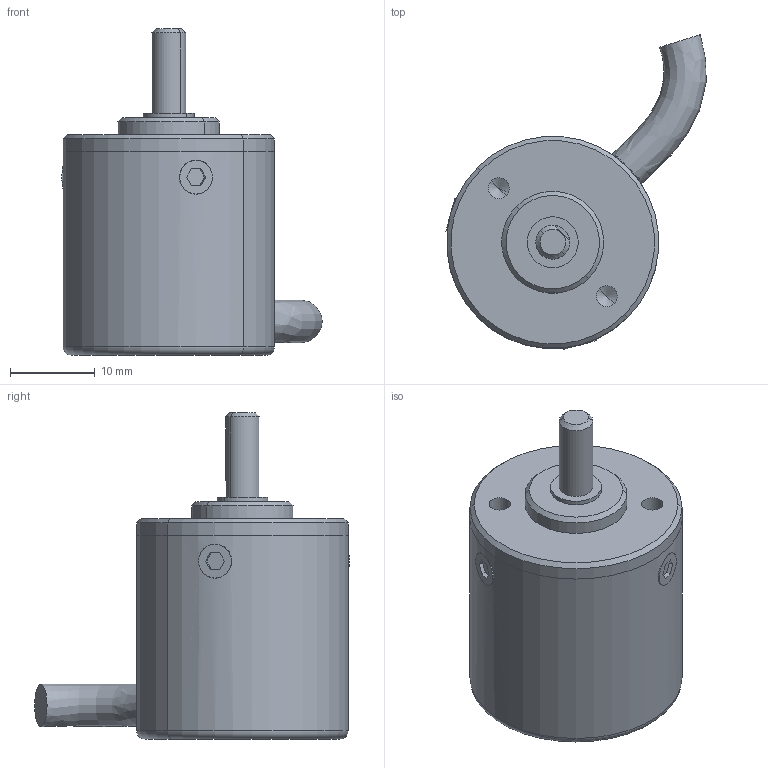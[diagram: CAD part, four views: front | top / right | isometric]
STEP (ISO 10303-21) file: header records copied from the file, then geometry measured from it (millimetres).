
FILE_DESCRIPTION(/* description */ (''),/* implementation_level */ '2;1');
FILE_NAME(/* name */ '00-1编码器 IP54-BRT25-4mm轴 _侧出）_stp.stp',/* time_stamp */ '2024-04-22T18:47:20+08:00',/* author */ (''),/* organization */ (''),/* preprocessor_version */ 'ST-DEVELOPER v16.7',/* originating_system */ 'SIEMENS PLM Software NX 12.0',/* authorisation */ '');
FILE_SCHEMA (('AP203_CONFIGURATION_CONTROLLED_3D_DESIGN_OF_MECHANICAL_PARTS_AND_ASSEMBLIES_MIM_LF { 1 0 10303 403 2 1 2}'));
Length unit declared in the file: millimetre
Products named in the file (1): Li Y5970CF99cb8o
Bounding box: 30.67 x 37.08 x 38.5 mm (x, y, z)
Volume: 13364.5 mm3; surface area: 3657.8 mm2
Topology: 2 solids, 2 shells, 69 faces, 145 edges, 88 vertices
Faces by surface type: plane 34, cylinder 21, cone 11, torus 2, bspline 1
Full cylindrical faces by diameter (mm): 5.1 x1
Entity records: 2198 total; most frequent: CARTESIAN_POINT 627, DIRECTION 315, ORIENTED_EDGE 276, EDGE_CURVE 138, AXIS2_PLACEMENT_3D 117, VERTEX_POINT 87, EDGE_LOOP 83, LINE 81
